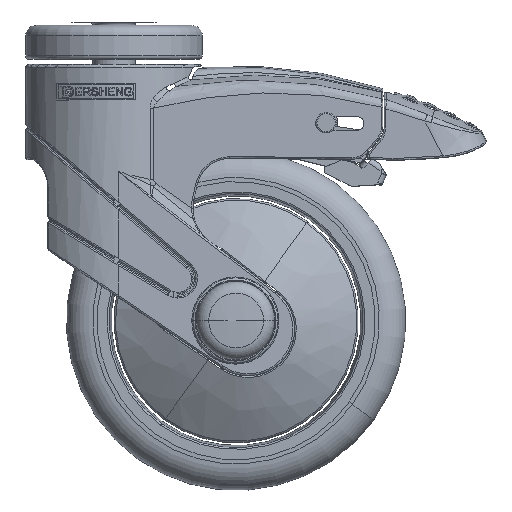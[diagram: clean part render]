
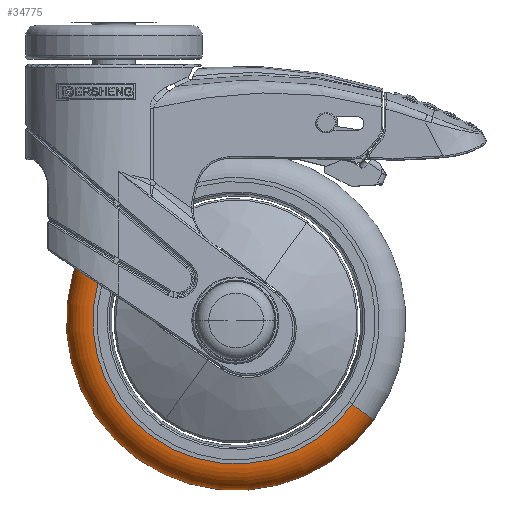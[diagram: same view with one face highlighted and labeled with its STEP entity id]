
A CAD part, top view. The second image highlights one B-rep face of the part: STEP entity #34775.
In plain terms, the highlighted toroidal (fillet/blend) face has major radius 42 mm and minor radius 8 mm.
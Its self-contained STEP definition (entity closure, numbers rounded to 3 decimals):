
#34541=CARTESIAN_POINT('',(36.,-69.8,4.219));
#34542=DIRECTION('',(0.,0.,-1.));
#34543=DIRECTION('',(0.811,-0.585,0.));
#34544=AXIS2_PLACEMENT_3D('',#34541,#34542,#34543);
#34559=CARTESIAN_POINT('',(70.06,-94.375,
4.219));
#34560=DIRECTION('',(0.585,0.811,0.));
#34561=DIRECTION('',(0.023,-0.016,1.));
#34562=AXIS2_PLACEMENT_3D('',#34559,#34560,#34561);
#34569=CARTESIAN_POINT('',(1.94,-45.225,
4.219));
#34570=DIRECTION('',(-0.585,-0.811,0.));
#34571=DIRECTION('',(-0.023,0.016,1.));
#34572=AXIS2_PLACEMENT_3D('',#34569,#34570,#34571);
#34574=CARTESIAN_POINT('',(36.,-69.8,12.216));
#34575=DIRECTION('',(0.,0.,-1.));
#34576=DIRECTION('',(0.811,-0.585,0.));
#34577=AXIS2_PLACEMENT_3D('',#34574,#34575,#34576);
#34665=CARTESIAN_POINT('',(76.547,-99.056,
4.219));
#34667=VERTEX_POINT('',#34665);
#34671=CARTESIAN_POINT('',(70.24,-94.505,
12.216));
#34672=VERTEX_POINT('',#34671);
#34673=CARTESIAN_POINT('',(-4.547,-40.544,
4.219));
#34675=VERTEX_POINT('',#34673);
#34679=CARTESIAN_POINT('',(1.76,-45.095,
12.216));
#34680=VERTEX_POINT('',#34679);
#34763=CARTESIAN_POINT('',(36.,-69.8,4.219));
#34764=DIRECTION('',(0.,0.,-1.));
#34765=DIRECTION('',(0.811,-0.585,0.));
#34766=AXIS2_PLACEMENT_3D('',#34763,#34764,#34765);
#34767=TOROIDAL_SURFACE('',#34766,42.,8.);
#34768=ORIENTED_EDGE('',*,*,#34746,.T.);
#34769=ORIENTED_EDGE('',*,*,#34708,.T.);
#34770=ORIENTED_EDGE('',*,*,#34750,.F.);
#34772=ORIENTED_EDGE('',*,*,#34771,.F.);
#34773=EDGE_LOOP('',(#34768,#34769,#34770,#34772));
#34774=FACE_OUTER_BOUND('',#34773,.F.);
#34545=CIRCLE('',#34544,50.);
#34563=CIRCLE('',#34562,8.);
#34573=CIRCLE('',#34572,8.);
#34578=CIRCLE('',#34577,42.222);
#34708=EDGE_CURVE('',#34667,#34675,#34545,.T.);
#34746=EDGE_CURVE('',#34672,#34667,#34563,.T.);
#34750=EDGE_CURVE('',#34680,#34675,#34573,.T.);
#34771=EDGE_CURVE('',#34672,#34680,#34578,.T.);
#34775=ADVANCED_FACE('',(#34774),#34767,.T.);
